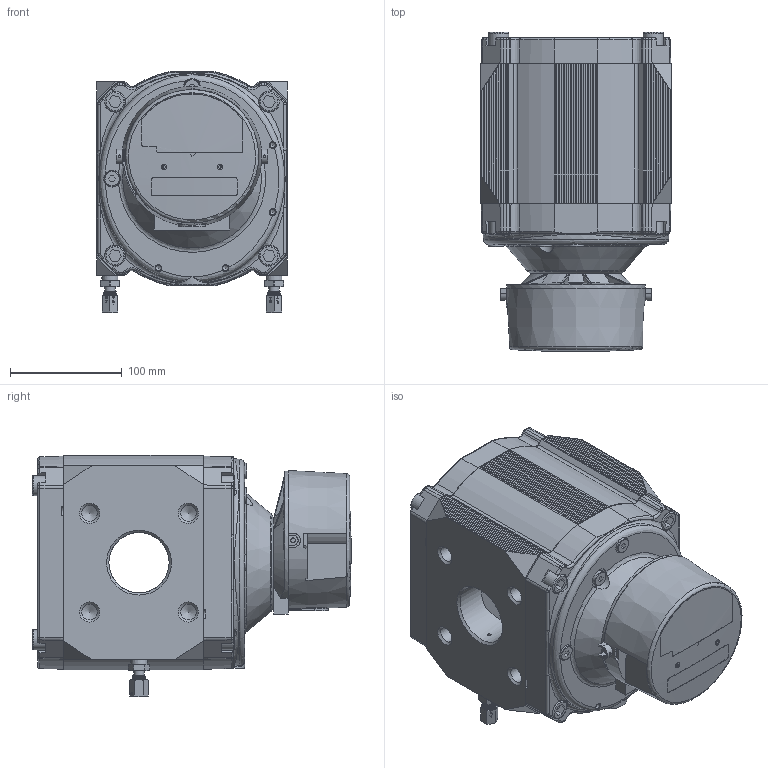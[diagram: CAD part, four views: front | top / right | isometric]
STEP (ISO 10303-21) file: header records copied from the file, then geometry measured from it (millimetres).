
FILE_DESCRIPTION(('STEP AP242'), '1');
FILE_NAME('ñ÷åò÷èê ÐÂÃ-À G65_1', '', ('UNSPECIFIED'), ('UNSPECIFIED'), 'C3D Converter', 'C3D Toolkit', '');
FILE_SCHEMA(('AP242_MANAGED_MODEL_BASED_3D_ENGINEERING_MIM_LF { 1 0 10303 442 1 1 4 }'));
Length unit declared in the file: millimetre
Bounding box: 171 x 285.9 x 215.85 mm (x, y, z)
Volume: 3262674.4 mm3; surface area: 549496 mm2
Topology: 22 solids, 22 shells, 1486 faces, 3878 edges, 2495 vertices
Faces by surface type: cylinder 540, plane 506, cone 249, torus 118, bspline 69, sphere 4
Full cylindrical faces by diameter (mm): 2 x2, 2.5 x4, 3.1 x1, 3.2 x2, 4 x5, 4.2 x6, 4.3 x2, 5 x8, 5.8 x4, 6 x18, 9 x5, 9.264 x2, 10 x5, 10.25 x8, 10.5 x1, 10.7 x2, 12 x8, 13 x8, 14 x13, 15 x2, 18 x9, 22 x2, 27 x2, 28.03 x2, 30 x1, 39 x1, 43.5 x1, 54 x2, 62.2 x1, 62.4 x1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
Entity records: 89682 total; most frequent: CARTESIAN_POINT 43473, ORIENTED_EDGE 7044, DIRECTION 6807, EDGE_CURVE 3522, AXIS2_PLACEMENT_3D 2723, VERTEX_POINT 2449, EDGE_LOOP 1911, FACE_BOUND 1513
